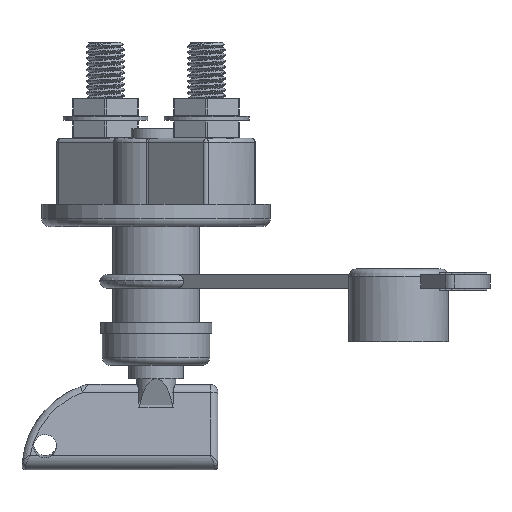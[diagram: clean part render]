
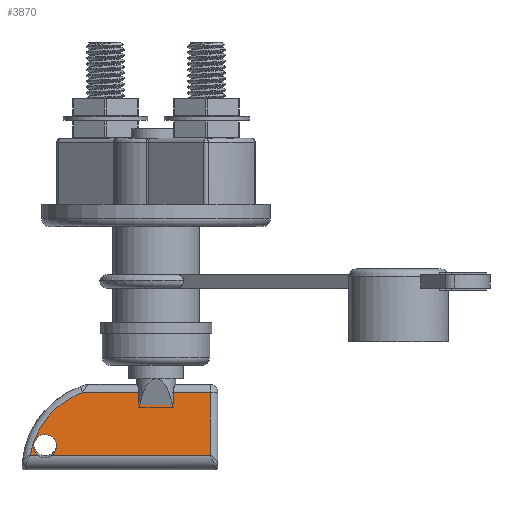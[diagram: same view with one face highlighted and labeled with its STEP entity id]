
A CAD part, front view. The second image highlights one B-rep face of the part: STEP entity #3870.
In plain terms, the highlighted planar face has unit normal (-0.001, -0.997, 0.082) as drawn and (0, -0.082, -0.997) by its records, which use the part's own axes.
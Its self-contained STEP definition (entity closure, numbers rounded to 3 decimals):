
#100=ELLIPSE('',#4348,3.041,3.);
#101=ELLIPSE('',#4349,3.041,3.);
#102=ELLIPSE('',#4352,21.303,21.231);
#291=PLANE('',#4351);
#421=LINE('',#6199,#663);
#422=LINE('',#6201,#664);
#423=LINE('',#6203,#665);
#424=LINE('',#6206,#666);
#663=VECTOR('',#5037,10.);
#664=VECTOR('',#5038,10.);
#665=VECTOR('',#5039,10.);
#666=VECTOR('',#5042,10.);
#1035=FACE_OUTER_BOUND('',#1291,.T.);
#1291=EDGE_LOOP('',(#2941,#2942,#2943,#2944,#2945,#2946,#2947));
#1783=VERTEX_POINT('',#6166);
#1784=VERTEX_POINT('',#6168);
#1787=VERTEX_POINT('',#6188);
#1788=VERTEX_POINT('',#6198);
#1789=VERTEX_POINT('',#6200);
#1790=VERTEX_POINT('',#6202);
#1791=VERTEX_POINT('',#6204);
#2209=EDGE_CURVE('',#1784,#1783,#100,.T.);
#2213=EDGE_CURVE('',#1783,#1787,#101,.T.);
#2215=EDGE_CURVE('',#1788,#1787,#421,.T.);
#2216=EDGE_CURVE('',#1789,#1788,#422,.T.);
#2217=EDGE_CURVE('',#1790,#1789,#423,.T.);
#2218=EDGE_CURVE('',#1791,#1790,#102,.T.);
#2219=EDGE_CURVE('',#1784,#1791,#424,.T.);
#2941=ORIENTED_EDGE('',*,*,#2209,.T.);
#2942=ORIENTED_EDGE('',*,*,#2213,.T.);
#2943=ORIENTED_EDGE('',*,*,#2215,.F.);
#2944=ORIENTED_EDGE('',*,*,#2216,.F.);
#2945=ORIENTED_EDGE('',*,*,#2217,.F.);
#2946=ORIENTED_EDGE('',*,*,#2218,.F.);
#2947=ORIENTED_EDGE('',*,*,#2219,.F.);
#3870=ADVANCED_FACE('',(#1035),#291,.F.);
#4348=AXIS2_PLACEMENT_3D('',#6169,#5029,#5030);
#4349=AXIS2_PLACEMENT_3D('',#6195,#5031,#5032);
#4351=AXIS2_PLACEMENT_3D('',#6197,#5035,#5036);
#4352=AXIS2_PLACEMENT_3D('',#6205,#5040,#5041);
#5029=DIRECTION('center_axis',(0.,0.082,0.997));
#5030=DIRECTION('ref_axis',(0.,-0.997,0.082));
#5031=DIRECTION('center_axis',(0.,0.082,0.997));
#5032=DIRECTION('ref_axis',(0.,-0.997,0.082));
#5035=DIRECTION('center_axis',(0.,0.082,0.997));
#5036=DIRECTION('ref_axis',(0.,0.997,-0.082));
#5037=DIRECTION('',(-1.,0.,0.));
#5038=DIRECTION('',(0.,0.997,-0.082));
#5039=DIRECTION('',(1.,0.,0.));
#5040=DIRECTION('center_axis',(0.,0.082,0.997));
#5041=DIRECTION('ref_axis',(0.,-0.997,0.082));
#5042=DIRECTION('',(-1.,0.,0.));
#6166=CARTESIAN_POINT('',(-13.87,-6.149,0.202));
#6168=CARTESIAN_POINT('',(-12.696,-3.744,0.004));
#6169=CARTESIAN_POINT('Origin',(-10.87,-6.149,0.202));
#6188=CARTESIAN_POINT('',(-9.044,-3.744,0.004));
#6195=CARTESIAN_POINT('Origin',(-10.87,-6.149,0.202));
#6197=CARTESIAN_POINT('Origin',(34.,-22.2,1.525));
#6198=CARTESIAN_POINT('',(32.,-3.744,0.004));
#6199=CARTESIAN_POINT('',(21.275,-3.744,0.004));
#6200=CARTESIAN_POINT('',(32.,-20.089,1.351));
#6201=CARTESIAN_POINT('',(32.,-22.138,1.52));
#6202=CARTESIAN_POINT('',(-1.157,-20.089,1.351));
#6203=CARTESIAN_POINT('',(17.,-20.089,1.351));
#6204=CARTESIAN_POINT('',(-14.793,-3.744,0.004));
#6205=CARTESIAN_POINT('Origin',(6.131,-0.148,-0.293));
#6206=CARTESIAN_POINT('',(21.275,-3.744,0.004));
